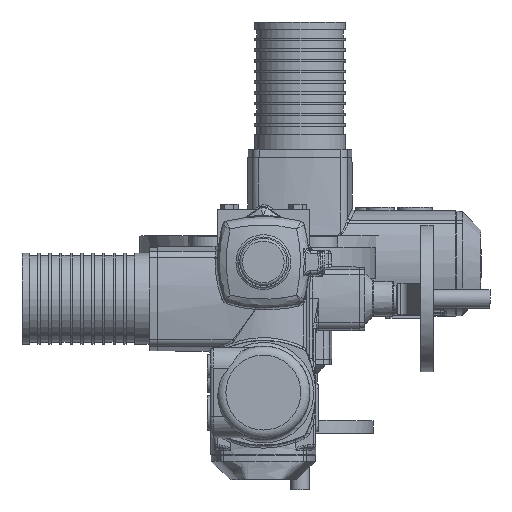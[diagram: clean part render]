
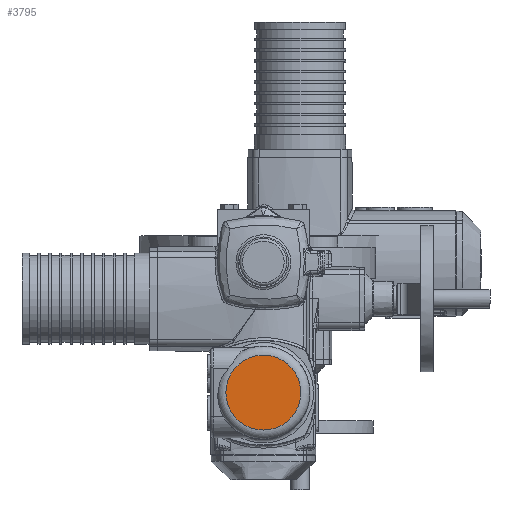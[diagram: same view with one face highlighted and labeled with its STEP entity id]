
A CAD part, top view. The second image highlights one B-rep face of the part: STEP entity #3795.
In plain terms, the highlighted planar face has unit normal (0, 0, 1) as drawn and (0, 0, -1) by its records, which use the part's own axes.
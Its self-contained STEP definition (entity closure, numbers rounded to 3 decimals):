
#3795 = ADVANCED_FACE( '', ( #8046 ), #8047, .F. );
#8046 = FACE_OUTER_BOUND( '', #18581, .T. );
#8047 = PLANE( '', #18582 );
#18581 = EDGE_LOOP( '', ( #32435 ) );
#18582 = AXIS2_PLACEMENT_3D( '', #32436, #32437, #32438 );
#32435 = ORIENTED_EDGE( '', *, *, #38977, .T. );
#32436 = CARTESIAN_POINT( '', ( 143., 0., -209. ) );
#32437 = DIRECTION( '', ( 0., 0., 1. ) );
#32438 = DIRECTION( '', ( 1., 0., 0. ) );
#38977 = EDGE_CURVE( '', #45614, #45614, #45615, .F. );
#45614 = VERTEX_POINT( '', #69080 );
#45615 = CIRCLE( '', #69081, 41. );
#69080 = CARTESIAN_POINT( '', ( 184., 0., -209. ) );
#69081 = AXIS2_PLACEMENT_3D( '', #72991, #72992, #72993 );
#72991 = CARTESIAN_POINT( '', ( 143., 0., -209. ) );
#72992 = DIRECTION( '', ( 0., 0., 1. ) );
#72993 = DIRECTION( '', ( 1., 0., 0. ) );
